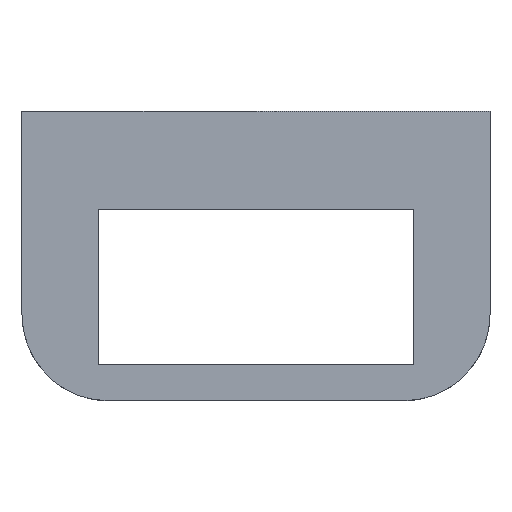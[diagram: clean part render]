
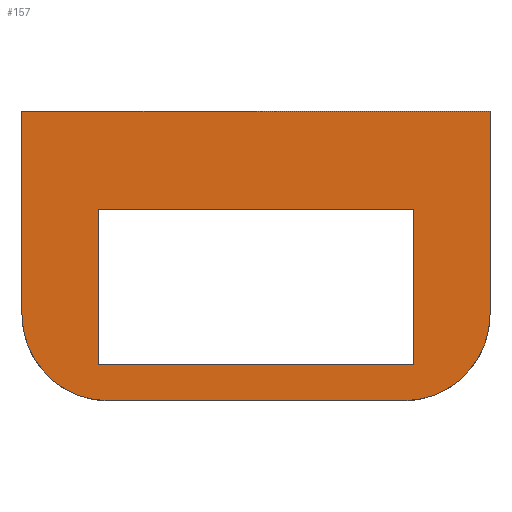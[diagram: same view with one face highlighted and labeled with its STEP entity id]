
A CAD part, left-side view. The second image highlights one B-rep face of the part: STEP entity #157.
In plain terms, the highlighted planar face has unit normal (-1, 0, 0).
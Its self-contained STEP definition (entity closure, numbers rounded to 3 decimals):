
#157=ADVANCED_FACE('',(#497,#499),#501,.T.);
#497=FACE_BOUND('',#498,.T.);
#498=EDGE_LOOP('',(#788,#789,#790,#791,#792,#793));
#499=FACE_BOUND('',#500,.T.);
#500=EDGE_LOOP('',(#794,#795,#796,#797));
#501=PLANE('',#502);
#502=AXIS2_PLACEMENT_3D('',#503,#504,#505);
#503=CARTESIAN_POINT('',(-35.,19.,0.));
#504=DIRECTION('',(-1.,0.,0.));
#505=DIRECTION('',(0.,-1.,0.));
#788=ORIENTED_EDGE('',*,*,#968,.F.);
#789=ORIENTED_EDGE('',*,*,#969,.T.);
#790=ORIENTED_EDGE('',*,*,#970,.F.);
#791=ORIENTED_EDGE('',*,*,#971,.F.);
#792=ORIENTED_EDGE('',*,*,#972,.F.);
#793=ORIENTED_EDGE('',*,*,#927,.T.);
#794=ORIENTED_EDGE('',*,*,#916,.T.);
#795=ORIENTED_EDGE('',*,*,#920,.T.);
#796=ORIENTED_EDGE('',*,*,#931,.T.);
#797=ORIENTED_EDGE('',*,*,#922,.T.);
#916=EDGE_CURVE('',#1019,#1017,#1020,.F.);
#920=EDGE_CURVE('',#1017,#1024,#1026,.F.);
#922=EDGE_CURVE('',#1029,#1019,#1030,.F.);
#927=EDGE_CURVE('',#1039,#1037,#1040,.T.);
#931=EDGE_CURVE('',#1024,#1029,#1045,.F.);
#968=EDGE_CURVE('',#1112,#1037,#1113,.F.);
#969=EDGE_CURVE('',#1112,#1114,#1115,.T.);
#970=EDGE_CURVE('',#1116,#1114,#1117,.T.);
#971=EDGE_CURVE('',#1118,#1116,#1119,.T.);
#972=EDGE_CURVE('',#1039,#1118,#1120,.F.);
#1017=VERTEX_POINT('',#1187);
#1019=VERTEX_POINT('',#1191);
#1020=LINE('',#1192,#1193);
#1024=VERTEX_POINT('',#1202);
#1026=LINE('',#1206,#1207);
#1029=VERTEX_POINT('',#1213);
#1030=LINE('',#1214,#1215);
#1037=VERTEX_POINT('',#1229);
#1039=VERTEX_POINT('',#1233);
#1040=LINE('',#1234,#1235);
#1045=LINE('',#1247,#1248);
#1112=VERTEX_POINT('',#1404);
#1113=CIRCLE('',#1405,7.);
#1114=VERTEX_POINT('',#1409);
#1115=LINE('',#1410,#1411);
#1116=VERTEX_POINT('',#1413);
#1117=LINE('',#1414,#1415);
#1118=VERTEX_POINT('',#1417);
#1119=LINE('',#1418,#1419);
#1120=CIRCLE('',#1421,7.);
#1187=CARTESIAN_POINT('',(-35.,12.8,-12.6));
#1191=CARTESIAN_POINT('',(-35.,-12.8,-12.6));
#1192=CARTESIAN_POINT('',(-35.,12.8,-12.6));
#1193=VECTOR('',#1194,1.);
#1194=DIRECTION('',(0.,-1.,0.));
#1202=CARTESIAN_POINT('',(-35.,12.8,0.));
#1206=CARTESIAN_POINT('',(-35.,12.8,0.));
#1207=VECTOR('',#1208,1.);
#1208=DIRECTION('',(0.,0.,-1.));
#1213=CARTESIAN_POINT('',(-35.,-12.8,0.));
#1214=CARTESIAN_POINT('',(-35.,-12.8,-12.6));
#1215=VECTOR('',#1216,1.);
#1216=DIRECTION('',(0.,0.,1.));
#1229=CARTESIAN_POINT('',(-35.,-12.,-15.5));
#1233=CARTESIAN_POINT('',(-35.,12.,-15.5));
#1234=CARTESIAN_POINT('',(-35.,12.,-15.5));
#1235=VECTOR('',#1236,1.);
#1236=DIRECTION('',(0.,-1.,0.));
#1247=CARTESIAN_POINT('',(-35.,-12.8,0.));
#1248=VECTOR('',#1249,1.);
#1249=DIRECTION('',(0.,1.,0.));
#1404=CARTESIAN_POINT('',(-35.,-19.,-8.5));
#1405=AXIS2_PLACEMENT_3D('',#1406,#1407,#1408);
#1406=CARTESIAN_POINT('',(-35.,-12.,-8.5));
#1407=DIRECTION('',(-1.,0.,0.));
#1408=DIRECTION('',(0.,0.,-1.));
#1409=CARTESIAN_POINT('',(-35.,-19.,8.));
#1410=CARTESIAN_POINT('',(-35.,-19.,-8.5));
#1411=VECTOR('',#1412,1.);
#1412=DIRECTION('',(0.,0.,1.));
#1413=CARTESIAN_POINT('',(-35.,19.,8.));
#1414=CARTESIAN_POINT('',(-35.,19.,8.));
#1415=VECTOR('',#1416,1.);
#1416=DIRECTION('',(0.,-1.,0.));
#1417=CARTESIAN_POINT('',(-35.,19.,-8.5));
#1418=CARTESIAN_POINT('',(-35.,19.,-8.5));
#1419=VECTOR('',#1420,1.);
#1420=DIRECTION('',(0.,0.,1.));
#1421=AXIS2_PLACEMENT_3D('',#1422,#1423,#1424);
#1422=CARTESIAN_POINT('',(-35.,12.,-8.5));
#1423=DIRECTION('',(-1.,0.,0.));
#1424=DIRECTION('',(0.,1.,0.));
